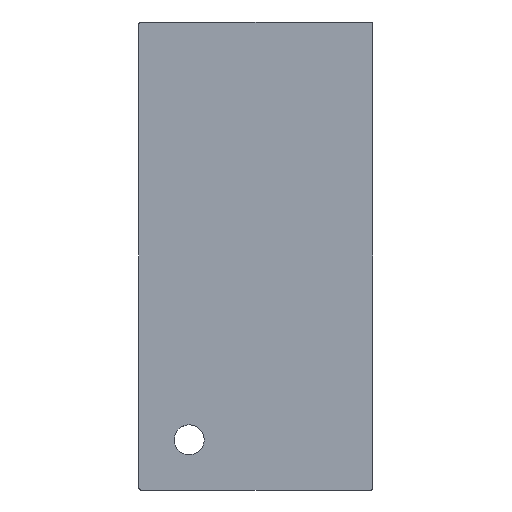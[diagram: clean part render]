
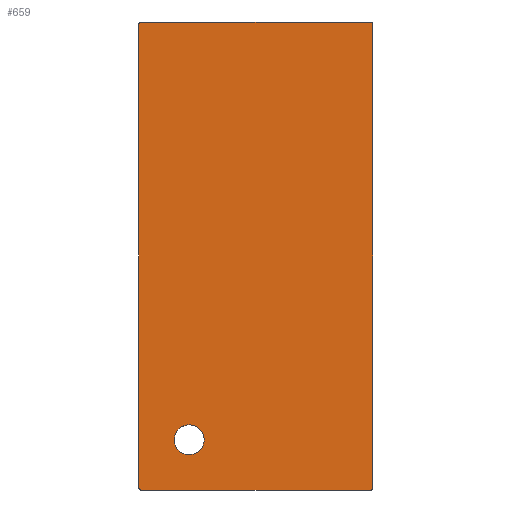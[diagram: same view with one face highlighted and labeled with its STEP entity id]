
A CAD part, front view. The second image highlights one B-rep face of the part: STEP entity #659.
In plain terms, the highlighted planar face has unit normal (0, -1, 0).
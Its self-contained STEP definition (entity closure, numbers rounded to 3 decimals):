
#57=FACE_BOUND('',#108,.T.);
#60=FACE_OUTER_BOUND('',#107,.T.);
#107=EDGE_LOOP('',(#450,#451,#452,#453,#454,#455,#456,#457));
#108=EDGE_LOOP('',(#458));
#157=LINE('',#1047,#203);
#158=LINE('',#1051,#204);
#159=LINE('',#1055,#205);
#160=LINE('',#1058,#206);
#203=VECTOR('',#817,10.);
#204=VECTOR('',#820,10.);
#205=VECTOR('',#823,10.);
#206=VECTOR('',#826,10.);
#249=CIRCLE('',#721,5.);
#250=CIRCLE('',#722,5.);
#251=CIRCLE('',#723,5.);
#252=CIRCLE('',#724,5.);
#253=CIRCLE('',#725,45.);
#296=VERTEX_POINT('',#1043);
#297=VERTEX_POINT('',#1044);
#298=VERTEX_POINT('',#1046);
#299=VERTEX_POINT('',#1048);
#300=VERTEX_POINT('',#1050);
#301=VERTEX_POINT('',#1052);
#302=VERTEX_POINT('',#1054);
#303=VERTEX_POINT('',#1056);
#304=VERTEX_POINT('',#1059);
#351=EDGE_CURVE('',#296,#297,#249,.T.);
#352=EDGE_CURVE('',#298,#296,#157,.T.);
#353=EDGE_CURVE('',#299,#298,#250,.T.);
#354=EDGE_CURVE('',#300,#299,#158,.T.);
#355=EDGE_CURVE('',#301,#300,#251,.T.);
#356=EDGE_CURVE('',#302,#301,#159,.T.);
#357=EDGE_CURVE('',#303,#302,#252,.T.);
#358=EDGE_CURVE('',#297,#303,#160,.T.);
#359=EDGE_CURVE('',#304,#304,#253,.T.);
#450=ORIENTED_EDGE('',*,*,#351,.F.);
#451=ORIENTED_EDGE('',*,*,#352,.F.);
#452=ORIENTED_EDGE('',*,*,#353,.F.);
#453=ORIENTED_EDGE('',*,*,#354,.F.);
#454=ORIENTED_EDGE('',*,*,#355,.F.);
#455=ORIENTED_EDGE('',*,*,#356,.F.);
#456=ORIENTED_EDGE('',*,*,#357,.F.);
#457=ORIENTED_EDGE('',*,*,#358,.F.);
#458=ORIENTED_EDGE('',*,*,#359,.F.);
#648=PLANE('',#720);
#659=ADVANCED_FACE('',(#60,#57),#648,.F.);
#720=AXIS2_PLACEMENT_3D('',#1042,#813,#814);
#721=AXIS2_PLACEMENT_3D('',#1045,#815,#816);
#722=AXIS2_PLACEMENT_3D('',#1049,#818,#819);
#723=AXIS2_PLACEMENT_3D('',#1053,#821,#822);
#724=AXIS2_PLACEMENT_3D('',#1057,#824,#825);
#725=AXIS2_PLACEMENT_3D('',#1060,#827,#828);
#813=DIRECTION('center_axis',(0.,1.,0.));
#814=DIRECTION('ref_axis',(0.,0.,1.));
#815=DIRECTION('center_axis',(0.,1.,0.));
#816=DIRECTION('ref_axis',(-0.707,0.,0.707));
#817=DIRECTION('',(0.,0.,1.));
#818=DIRECTION('center_axis',(0.,1.,0.));
#819=DIRECTION('ref_axis',(-0.707,0.,-0.707));
#820=DIRECTION('',(-1.,0.,0.));
#821=DIRECTION('center_axis',(0.,1.,0.));
#822=DIRECTION('ref_axis',(0.707,0.,-0.707));
#823=DIRECTION('',(0.,0.,-1.));
#824=DIRECTION('center_axis',(0.,1.,0.));
#825=DIRECTION('ref_axis',(0.707,0.,0.707));
#826=DIRECTION('',(1.,0.,0.));
#827=DIRECTION('center_axis',(0.,-1.,0.));
#828=DIRECTION('ref_axis',(0.,0.,-1.));
#1042=CARTESIAN_POINT('Origin',(0.,75.,0.));
#1043=CARTESIAN_POINT('',(-350.,75.,695.));
#1044=CARTESIAN_POINT('',(-345.,75.,700.));
#1045=CARTESIAN_POINT('Origin',(-345.,75.,695.));
#1046=CARTESIAN_POINT('',(-350.,75.,-695.));
#1047=CARTESIAN_POINT('',(-350.,75.,-350.));
#1048=CARTESIAN_POINT('',(-345.,75.,-700.));
#1049=CARTESIAN_POINT('Origin',(-345.,75.,-695.));
#1050=CARTESIAN_POINT('',(345.,75.,-700.));
#1051=CARTESIAN_POINT('',(175.,75.,-700.));
#1052=CARTESIAN_POINT('',(350.,75.,-695.));
#1053=CARTESIAN_POINT('Origin',(345.,75.,-695.));
#1054=CARTESIAN_POINT('',(350.,75.,695.));
#1055=CARTESIAN_POINT('',(350.,75.,350.));
#1056=CARTESIAN_POINT('',(345.,75.,700.));
#1057=CARTESIAN_POINT('Origin',(345.,75.,695.));
#1058=CARTESIAN_POINT('',(-175.,75.,700.));
#1059=CARTESIAN_POINT('',(-200.,75.,-505.));
#1060=CARTESIAN_POINT('Origin',(-200.,75.,-550.));
